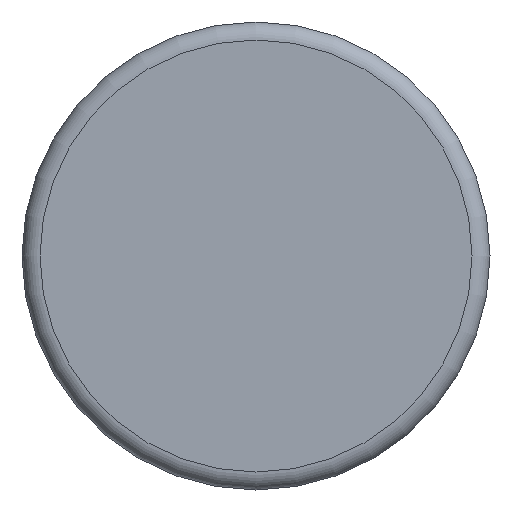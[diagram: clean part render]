
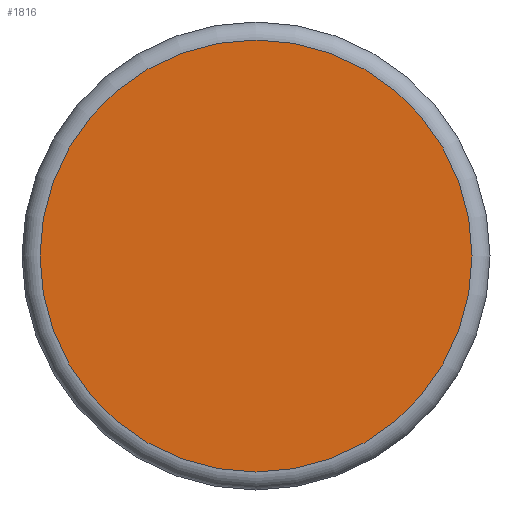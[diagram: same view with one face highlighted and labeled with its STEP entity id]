
A CAD part, front view. The second image highlights one B-rep face of the part: STEP entity #1816.
In plain terms, the highlighted planar face has unit normal (0, -1, 0).
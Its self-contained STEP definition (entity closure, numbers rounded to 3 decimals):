
#522=FACE_OUTER_BOUND('',#632,.T.);
#632=EDGE_LOOP('',(#1660,#1661));
#660=CIRCLE('',#1913,24.);
#661=CIRCLE('',#1914,24.);
#887=VERTEX_POINT('',#4893);
#888=VERTEX_POINT('',#4894);
#1146=EDGE_CURVE('',#887,#888,#660,.T.);
#1147=EDGE_CURVE('',#888,#887,#661,.T.);
#1660=ORIENTED_EDGE('',*,*,#1146,.F.);
#1661=ORIENTED_EDGE('',*,*,#1147,.F.);
#1719=PLANE('',#1912);
#1816=ADVANCED_FACE('',(#522),#1719,.F.);
#1912=AXIS2_PLACEMENT_3D('',#4892,#2235,#2236);
#1913=AXIS2_PLACEMENT_3D('',#4895,#2237,#2238);
#1914=AXIS2_PLACEMENT_3D('',#4896,#2239,#2240);
#2235=DIRECTION('center_axis',(0.,1.,0.));
#2236=DIRECTION('ref_axis',(0.,0.,1.));
#2237=DIRECTION('center_axis',(0.,1.,0.));
#2238=DIRECTION('ref_axis',(1.,0.,0.));
#2239=DIRECTION('center_axis',(0.,1.,0.));
#2240=DIRECTION('ref_axis',(1.,0.,0.));
#4892=CARTESIAN_POINT('Origin',(0.,0.,0.));
#4893=CARTESIAN_POINT('',(-24.,0.,0.));
#4894=CARTESIAN_POINT('',(0.,0.,-24.));
#4895=CARTESIAN_POINT('Origin',(0.,0.,0.));
#4896=CARTESIAN_POINT('Origin',(0.,0.,0.));
